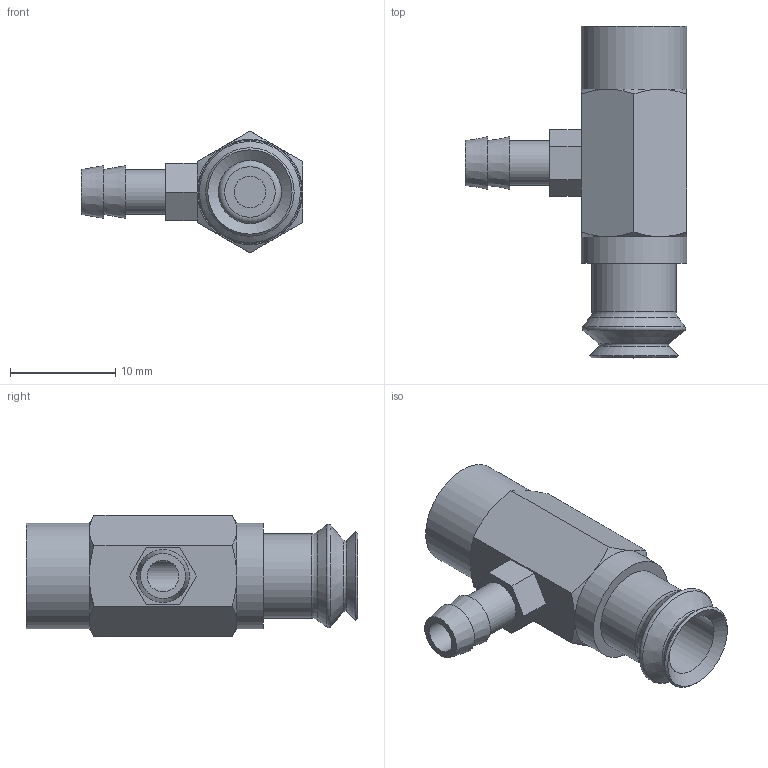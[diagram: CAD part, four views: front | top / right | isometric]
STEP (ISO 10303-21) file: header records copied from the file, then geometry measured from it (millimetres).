
FILE_DESCRIPTION(('STEP AP203'),'1');
FILE_NAME('.stp','2025-04-23T02:34:36',(' '),(' '),'Spatial InterOp 3D',' ',' ');
FILE_SCHEMA(('CONFIG_CONTROL_DESIGN'));
Length unit declared in the file: millimetre
Products named in the file (3): BBPJYK-8-※; PJYK-8; BPJG-8-※
Assembly tree (2 placements, depth 2):
  BBPJYK-8-※
    PJYK-8
    BPJG-8-※
Bounding box: 21 x 31.5 x 11.55 mm (x, y, z)
Volume: 2100.3 mm3; surface area: 2053.2 mm2
Topology: 2 solids, 2 shells, 70 faces, 149 edges, 90 vertices
Faces by surface type: plane 26, cone 22, cylinder 13, torus 9
Full cylindrical faces by diameter (mm): 3 x2, 3.242 x1, 4 x2, 4.26 x1, 5 x1, 6 x2, 8 x1, 10 x2
Entity records: 1982 total; most frequent: CARTESIAN_POINT 531, DIRECTION 278, ORIENTED_EDGE 214, AXIS2_PLACEMENT_3D 126, EDGE_LOOP 111, EDGE_CURVE 107, FACE_OUTER_BOUND 90, VERTEX_POINT 81
